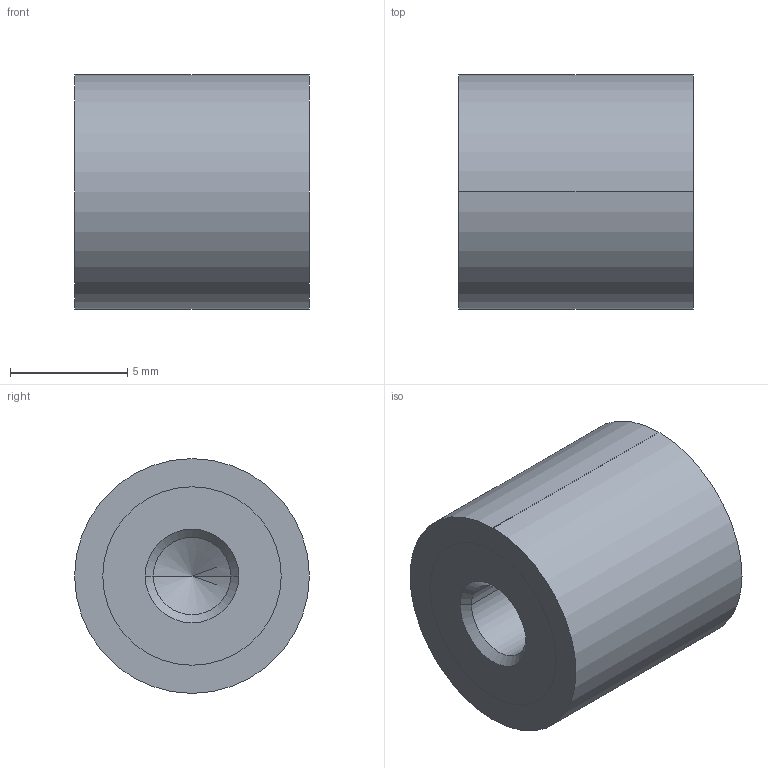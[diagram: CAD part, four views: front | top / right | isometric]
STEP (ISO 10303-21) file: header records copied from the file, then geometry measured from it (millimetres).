
FILE_DESCRIPTION (( 'STEP AP214' ), '1' );
FILE_NAME ('351-10-10-M4-EE-70.step', '2025-07-23T09:39:20', ( '' ), ( '' ), 'SwSTEP 2.0', 'SolidWorks 2022', '' );
FILE_SCHEMA (( 'AUTOMOTIVE_DESIGN' ));
Length unit declared in the file: millimetre
Products named in the file (1): 351-10-10-M4-EE-70
Bounding box: 10 x 10 x 10 mm (x, y, z)
Volume: 709.6 mm3; surface area: 553.3 mm2
Topology: 1 solids, 1 shells, 28 faces, 58 edges, 34 vertices
Faces by surface type: cylinder 14, cone 8, plane 6
Entity records: 844 total; most frequent: DIRECTION 144, CARTESIAN_POINT 117, ORIENTED_EDGE 108, AXIS2_PLACEMENT_3D 61, EDGE_CURVE 54, EDGE_LOOP 34, VERTEX_POINT 34, CIRCLE 32
